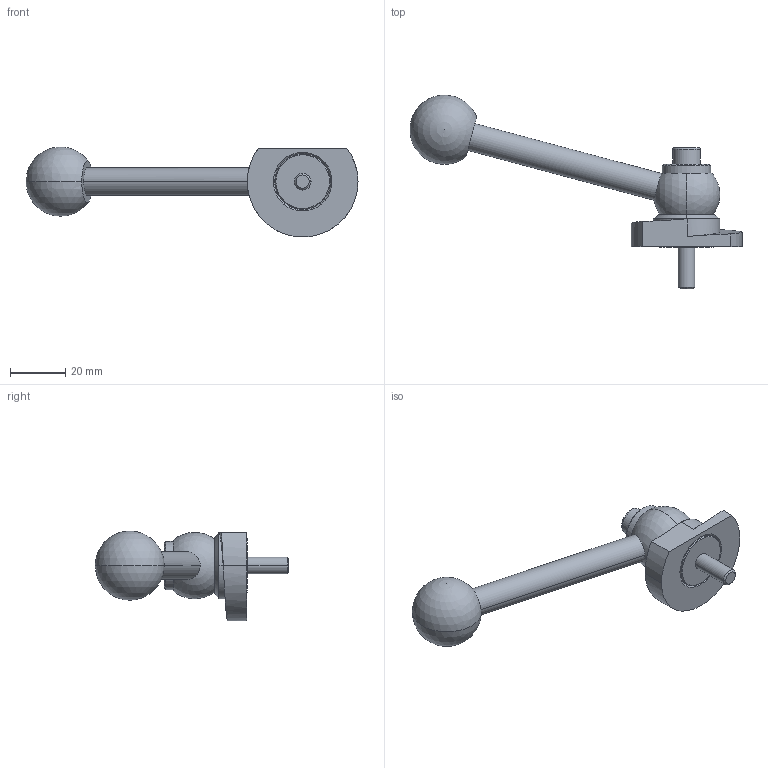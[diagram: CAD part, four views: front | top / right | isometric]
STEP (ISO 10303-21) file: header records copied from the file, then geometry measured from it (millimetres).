
FILE_DESCRIPTION (( 'STEP AP214' ), '1' );
FILE_NAME ('918.1-40-KVS-R-15.step', '2024-05-15T13:00:21', ( '' ), ( '' ), 'SwSTEP 2.0', 'SolidWorks 2022', '' );
FILE_SCHEMA (( 'AUTOMOTIVE_DESIGN' ));
Length unit declared in the file: millimetre
Products named in the file (1): 918.1-40-KVS-R-15
Bounding box: 119.95 x 69.99 x 32.5 mm (x, y, z)
Volume: 30174.3 mm3; surface area: 11118.8 mm2
Topology: 1 solids, 1 shells, 64 faces, 147 edges, 93 vertices
Faces by surface type: cylinder 22, plane 20, cone 14, sphere 4, torus 2, bspline 2
Entity records: 2045 total; most frequent: CARTESIAN_POINT 590, DIRECTION 321, ORIENTED_EDGE 274, EDGE_CURVE 137, AXIS2_PLACEMENT_3D 131, VERTEX_POINT 87, EDGE_LOOP 76, CIRCLE 68
